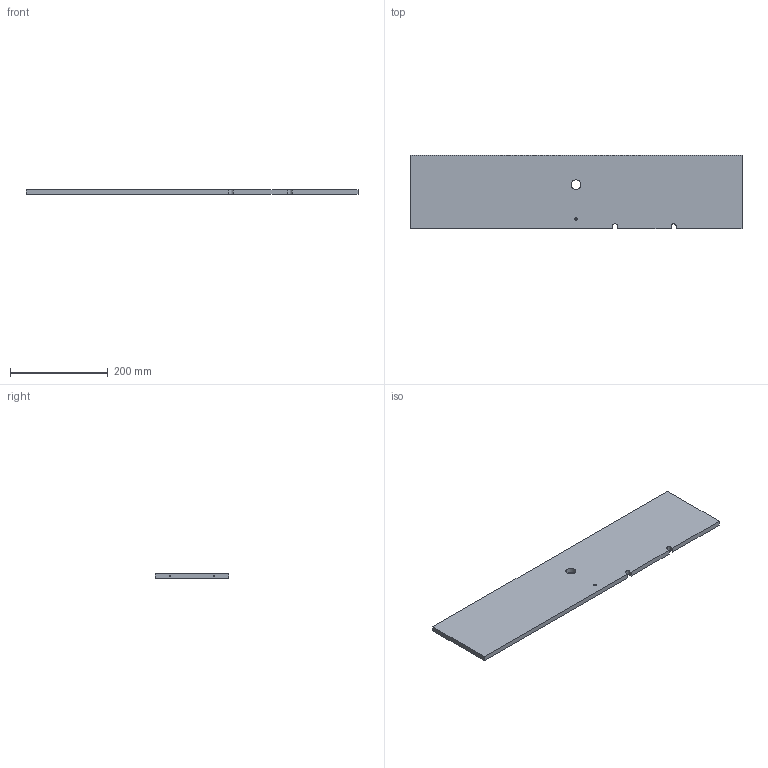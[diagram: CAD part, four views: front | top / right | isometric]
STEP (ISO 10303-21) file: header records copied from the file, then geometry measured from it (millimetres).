
FILE_DESCRIPTION(/* description */ ('Unknown'),/* implementation_level */ '2;1');
FILE_NAME(/* name */ '2b_modified front plate',/* time_stamp */ '2020-09-01T12:12:51+02:00',/* author */ ('Unknown'),/* organization */ ('Unknown'),/* preprocessor_version */ 'ST-DEVELOPER v16.7',/* originating_system */ 'Solid Edge',/* authorisation */ 'Unknown');
FILE_SCHEMA (('AUTOMOTIVE_DESIGN {1 0 10303 214 3 1 1}'));
Length unit declared in the file: millimetre
Products named in the file (1): 2b_modified front plate
Bounding box: 680 x 150 x 10 mm (x, y, z)
Volume: 1014169.8 mm3; surface area: 221515.7 mm2
Topology: 1 solids, 1 shells, 32 faces, 82 edges, 52 vertices
Faces by surface type: plane 12, cylinder 12, cone 8
Full cylindrical faces by diameter (mm): 3.3 x8, 5 x1, 20 x1
Entity records: 1092 total; most frequent: DIRECTION 146, CARTESIAN_POINT 141, ORIENTED_EDGE 112, FACE_BOUND 62, AXIS2_PLACEMENT_3D 57, EDGE_CURVE 56, EDGE_LOOP 54, VERTEX_POINT 52
